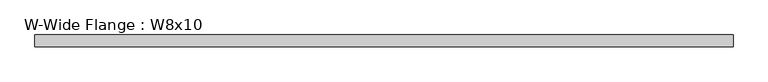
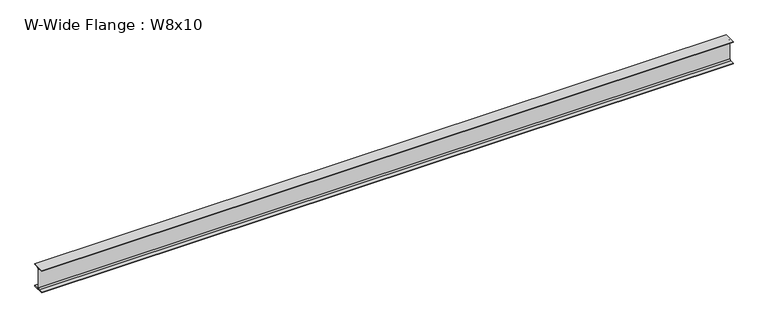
"""IFC4 building model written with IfcOpenShell, lengths in millimetres: beam geometry, W-Wide Flange : W8x10."""

from ifc_helpers import new_model, si_unit, point, frame, frame_2d, origin, place, context, project, spatial, polyline, circle_curve, trimmed, segment, composite_curve, outline, extrude, source, transform, mapped, element, save


def w_wide_flange_w8x10_4e543893(model_context):
    return source(origin(), model_context, "Body", "SweptSolid", [
        extrude(outline(composite_curve([segment(polyline([(50.038, -94.996), (50.038, -100.203), (-50.038, -100.203), (-50.038, -94.996), (-14.4145, -94.996)]), True, "CONTINUOUS"), segment(trimmed(circle_curve(frame_2d((-14.4145, -82.7405)), 12.2555), [point((-14.4145, -94.996))], [point((-2.159, -82.7405))], True, "CARTESIAN"), True, "CONTINUOUS"), segment(polyline([(-2.159, -82.7405), (-2.159, 82.7405)]), True, "CONTINUOUS"), segment(trimmed(circle_curve(frame_2d((-14.4145, 82.7405)), 12.2555), [point((-2.159, 82.7405))], [point((-14.4145, 94.996))], True, "CARTESIAN"), True, "CONTINUOUS"), segment(polyline([(-14.4145, 94.996), (-50.038, 94.996), (-50.038, 100.203), (50.038, 100.203), (50.038, 94.996), (14.4145, 94.996)]), True, "CONTINUOUS"), segment(trimmed(circle_curve(frame_2d((14.4145, 82.7405)), 12.2555), [point((14.4145, 94.996))], [point((2.159, 82.7405))], True, "CARTESIAN"), True, "CONTINUOUS"), segment(polyline([(2.159, 82.7405), (2.159, -82.7405)]), True, "CONTINUOUS"), segment(trimmed(circle_curve(frame_2d((14.4145, -82.7405)), 12.2555), [point((2.159, -82.7405))], [point((14.4145, -94.996))], True, "CARTESIAN"), True, "CONTINUOUS"), segment(polyline([(14.4145, -94.996), (50.038, -94.996)]), True, "CONTINUOUS")], self_intersect=False)), frame((-2961.513, 0.0, 0.0), z_axis=(1.0, 0.0, 0.0), x_axis=(0.0, 1.0, 0.0)), (0.0, 0.0, 1.0), 5923.026),
    ])


if __name__ == "__main__":
    model = new_model("IFC4")
    model_context = context("Model", 3, world=origin())
    ifc_project = project(units=[si_unit("LENGTHUNIT", "METRE", prefix="MILLI")], contexts=[model_context])
    site = spatial("IfcSite", under=ifc_project)
    building = spatial("IfcBuilding", under=site)
    placement = place(None, origin())
    w_wide_flange_w8x10_shape = w_wide_flange_w8x10_4e543893(model_context)
    element("IfcBeam", 1, ObjectType="W-Wide Flange : W8x10", at=placement, inside=building, context=model_context, shape_type="MappedRepresentation", body=[
        mapped(w_wide_flange_w8x10_shape, transform((0.0, 0.0, 0.0), x_axis=(1.0, 0.0, 0.0), y_axis=(0.0, 1.0, 0.0), z_axis=(0.0, 0.0, 1.0))),
    ])
    save(model, "model.ifc")
